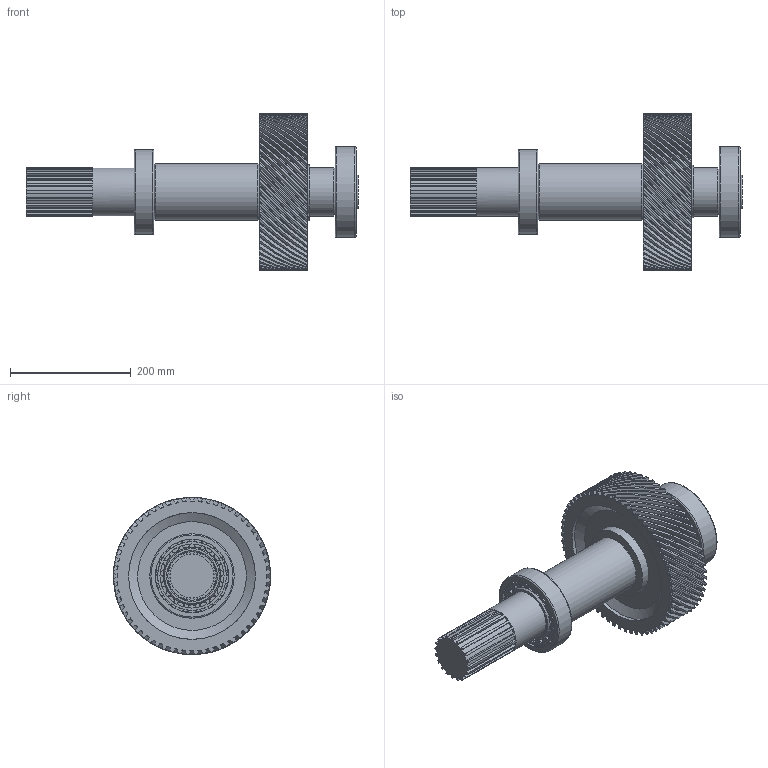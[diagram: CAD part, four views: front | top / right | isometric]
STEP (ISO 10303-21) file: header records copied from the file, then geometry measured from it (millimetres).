
FILE_DESCRIPTION(/* description */ (''),/* implementation_level */ '2;1');
FILE_NAME(/* name */ 'G:\YandexDisk\Работа\Inventor\Универ\ОАП\Лабораторные работы\ЛР6 Создание сборок\Редуктор\stp\Вал 1 в сборе.stp',/* time_stamp */ '2023-11-17T06:29:03+03:00',/* author */ ('34740'),/* organization */ (''),/* preprocessor_version */ 'ST-DEVELOPER v18.1',/* originating_system */ 'Autodesk Inventor 2022',/* authorisation */ '');
FILE_SCHEMA (('AUTOMOTIVE_DESIGN { 1 0 10303 214 3 1 1 }'));
Products named in the file (7): Вал 1 в сборе; Вал 1; Шпонка ISO 2491 22x9-63-A; Шестерня 2; Стопорное кольцо 
DIN 471 - 80 x 4; ISO 15 - 60 x 150 x 35; ISO 15 - 80 x 140 x 33
Assembly tree (6 placements, depth 2):
  Вал 1 в сборе
    Вал 1
    Шпонка ISO 2491 22x9-63-A
    Шестерня 2
    Стопорное кольцо 
DIN 471 - 80 x 4
    ISO 15 - 60 x 150 x 35
    ISO 15 - 80 x 140 x 33
Bounding box: 550 x 260.5 x 260.5 mm (x, y, z)
Volume: 6650719.3 mm3; surface area: 633937.6 mm2
Topology: 6 solids, 6 shells, 899 faces, 2608 edges, 1737 vertices
Faces by surface type: cylinder 296, bspline 240, plane 225, torus 124, cone 14
Full cylindrical faces by diameter (mm): 3 x2, 60 x2, 76.5 x1, 80 x4, 82.05 x1, 94 x1, 94.7 x1, 99.26 x1, 106.172 x1, 110.74 x1, 113.828 x1, 120 x2, 121.475 x2, 122.213 x2, 125.3 x1, 127.95 x1, 140 x1, 150 x1, 210 x1
Entity records: 172914 total; most frequent: CARTESIAN_POINT 150015, ORIENTED_EDGE 5216, DIRECTION 4633, EDGE_CURVE 2608, AXIS2_PLACEMENT_3D 2070, VERTEX_POINT 1737, CIRCLE 1398, EDGE_LOOP 1041
